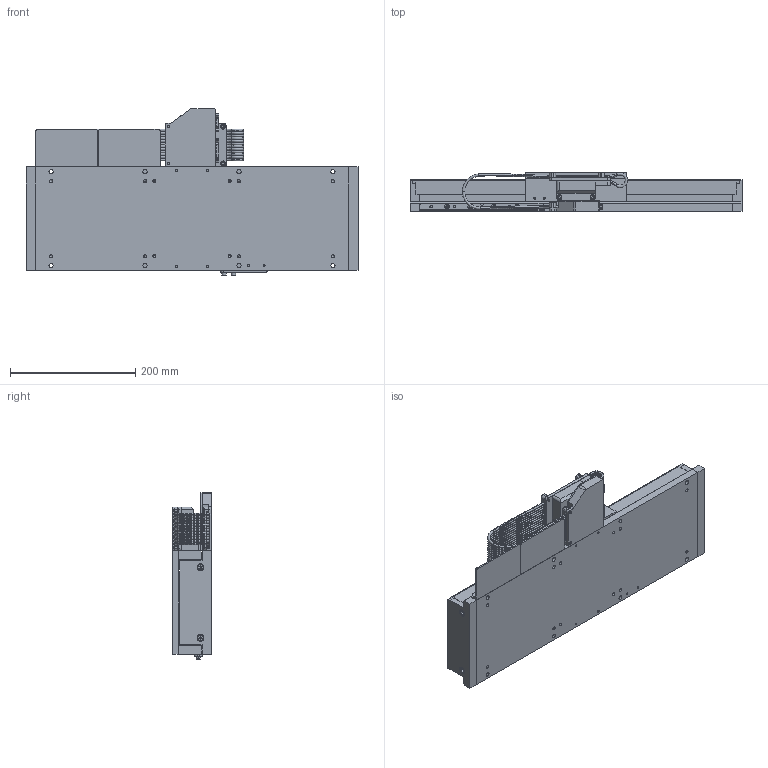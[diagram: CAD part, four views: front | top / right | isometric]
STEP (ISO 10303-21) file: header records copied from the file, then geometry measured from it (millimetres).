
FILE_DESCRIPTION (( 'STEP AP214' ), '1' );
FILE_NAME ('LM3-300-LM-EXPORT.STEP', '2024-05-06T20:30:48', ( 'lab' ), ( '' ), 'SwSTEP 2.0', 'SolidWorks 2018', '' );
FILE_SCHEMA (( 'AUTOMOTIVE_DESIGN' ));
Length unit declared in the file: millimetre
Products named in the file (19): 1000010_file_export10; 1000009_file_export18; 1000012_file_export7; 1000001_file_export38; 1000003_file_export33; 1000002_file_export36; 1000006_file_export25; 1000004_file_export41; 1000016_file_export30; 1000015_file_export37; 1000005_file_export32; LM3-300-LM-EXPORT; 1000014_file_export2; 1000008_file_export17; 1000011_file_export19; 1000017_file_export39; 1000018_file_export40; 1000013_file_export21; 1000007_file_export16
Assembly tree (42 placements, depth 2):
  LM3-300-LM-EXPORT
    1000007_file_export16  x4
    1000008_file_export17
    1000009_file_export18
    1000010_file_export10
    1000011_file_export19  x8
    1000012_file_export7
    1000013_file_export21  x4
    1000014_file_export2  x2
    1000015_file_export37  x6
    1000016_file_export30  x3
    1000017_file_export39  x2
    1000018_file_export40
    1000003_file_export33  x2
    1000005_file_export32  x2
    1000004_file_export41
    1000002_file_export36
    1000001_file_export38
    1000006_file_export25
Bounding box: 530 x 62 x 266 mm (x, y, z)
Volume: 4610455.4 mm3; surface area: 615463.2 mm2
Topology: 98 solids, 98 shells, 3103 faces, 7131 edges, 4304 vertices
Faces by surface type: plane 1144, cylinder 866, bspline 448, cone 358, torus 287
Entity records: 115351 total; most frequent: CARTESIAN_POINT 51522, DIRECTION 11995, ORIENTED_EDGE 11466, EDGE_CURVE 5733, AXIS2_PLACEMENT_3D 4742, VERTEX_POINT 3523, EDGE_LOOP 2836, CIRCLE 2634
